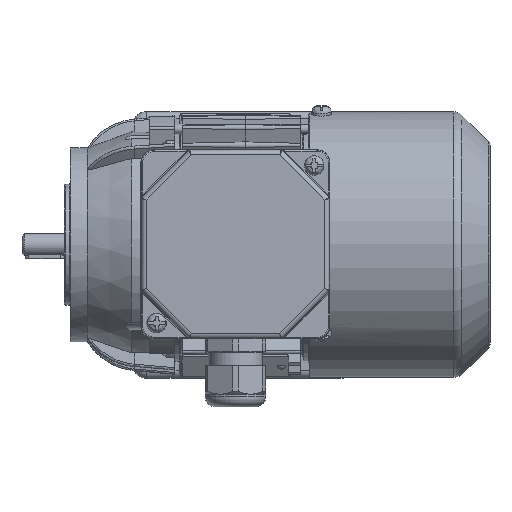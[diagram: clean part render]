
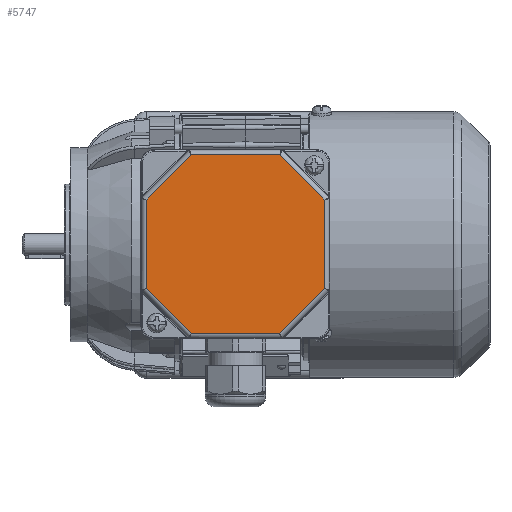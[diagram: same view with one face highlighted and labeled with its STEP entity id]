
A CAD part, top view. The second image highlights one B-rep face of the part: STEP entity #5747.
In plain terms, the highlighted planar face has unit normal (0, 0, 1).
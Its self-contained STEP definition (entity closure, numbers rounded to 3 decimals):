
#5747 = ADVANCED_FACE( '', ( #11504 ), #11505, .T. );
#11504 = FACE_OUTER_BOUND( '', #22936, .T. );
#11505 = PLANE( '', #22937 );
#22936 = EDGE_LOOP( '', ( #38322, #38323, #38324, #38325, #38326, #38327, #38328, #38329 ) );
#22937 = AXIS2_PLACEMENT_3D( '', #38330, #38331, #38332 );
#38322 = ORIENTED_EDGE( '', *, *, #44357, .T. );
#38323 = ORIENTED_EDGE( '', *, *, #43820, .T. );
#38324 = ORIENTED_EDGE( '', *, *, #44422, .T. );
#38325 = ORIENTED_EDGE( '', *, *, #40560, .T. );
#38326 = ORIENTED_EDGE( '', *, *, #42062, .T. );
#38327 = ORIENTED_EDGE( '', *, *, #43536, .T. );
#38328 = ORIENTED_EDGE( '', *, *, #45213, .T. );
#38329 = ORIENTED_EDGE( '', *, *, #42962, .T. );
#38330 = CARTESIAN_POINT( '', ( -39., 39., 12. ) );
#38331 = DIRECTION( '', ( 0., 0., 1. ) );
#38332 = DIRECTION( '', ( 1., 0., 0. ) );
#40560 = EDGE_CURVE( '', #47963, #47964, #47965, .T. );
#42062 = EDGE_CURVE( '', #47964, #45896, #50347, .F. );
#42962 = EDGE_CURVE( '', #51328, #49748, #51673, .T. );
#43536 = EDGE_CURVE( '', #45896, #52454, #52481, .T. );
#43820 = EDGE_CURVE( '', #51603, #48464, #52880, .T. );
#44357 = EDGE_CURVE( '', #49748, #51603, #53569, .F. );
#44422 = EDGE_CURVE( '', #48464, #47963, #53647, .F. );
#45213 = EDGE_CURVE( '', #52454, #51328, #54492, .F. );
#45896 = VERTEX_POINT( '', #55489 );
#47963 = VERTEX_POINT( '', #59664 );
#47964 = VERTEX_POINT( '', #59665 );
#47965 = LINE( '', #59666, #59667 );
#48464 = VERTEX_POINT( '', #60524 );
#49748 = VERTEX_POINT( '', #63043 );
#50347 = LINE( '', #64172, #64173 );
#51328 = VERTEX_POINT( '', #65919 );
#51603 = VERTEX_POINT( '', #66393 );
#51673 = LINE( '', #66501, #66502 );
#52454 = VERTEX_POINT( '', #68312 );
#52481 = LINE( '', #68376, #68377 );
#52880 = LINE( '', #69067, #69068 );
#53569 = LINE( '', #70333, #70334 );
#53647 = LINE( '', #70526, #70527 );
#54492 = LINE( '', #72090, #72091 );
#55489 = CARTESIAN_POINT( '', ( -36.825, -18.255, 12. ) );
#59664 = CARTESIAN_POINT( '', ( -18.255, 36.825, 12. ) );
#59665 = CARTESIAN_POINT( '', ( -36.825, 18.255, 12. ) );
#59666 = CARTESIAN_POINT( '', ( -37.401, 17.679, 12. ) );
#59667 = VECTOR( '', #74131, 1000. );
#60524 = CARTESIAN_POINT( '', ( 18.255, 36.825, 12. ) );
#63043 = CARTESIAN_POINT( '', ( 36.825, -18.255, 12. ) );
#64172 = CARTESIAN_POINT( '', ( -36.825, -19.069, 12. ) );
#64173 = VECTOR( '', #75909, 1000. );
#65919 = CARTESIAN_POINT( '', ( 18.255, -36.825, 12. ) );
#66393 = CARTESIAN_POINT( '', ( 36.825, 18.255, 12. ) );
#66501 = CARTESIAN_POINT( '', ( 37.401, -17.679, 12. ) );
#66502 = VECTOR( '', #76990, 1000. );
#68312 = CARTESIAN_POINT( '', ( -18.255, -36.825, 12. ) );
#68376 = CARTESIAN_POINT( '', ( -17.679, -37.401, 12. ) );
#68377 = VECTOR( '', #77671, 1000. );
#69067 = CARTESIAN_POINT( '', ( 17.679, 37.401, 12. ) );
#69068 = VECTOR( '', #78136, 1000. );
#70333 = CARTESIAN_POINT( '', ( 36.825, 19.069, 12. ) );
#70334 = VECTOR( '', #78797, 1000. );
#70526 = CARTESIAN_POINT( '', ( -19.069, 36.825, 12. ) );
#70527 = VECTOR( '', #78863, 1000. );
#72090 = CARTESIAN_POINT( '', ( 19.069, -36.825, 12. ) );
#72091 = VECTOR( '', #79408, 1000. );
#74131 = DIRECTION( '', ( -0.707, -0.707, 0. ) );
#75909 = DIRECTION( '', ( 0., 1., 0. ) );
#76990 = DIRECTION( '', ( 0.707, 0.707, 0. ) );
#77671 = DIRECTION( '', ( 0.707, -0.707, 0. ) );
#78136 = DIRECTION( '', ( -0.707, 0.707, 0. ) );
#78797 = DIRECTION( '', ( 0., -1., 0. ) );
#78863 = DIRECTION( '', ( 1., 0., 0. ) );
#79408 = DIRECTION( '', ( -1., 0., 0. ) );
